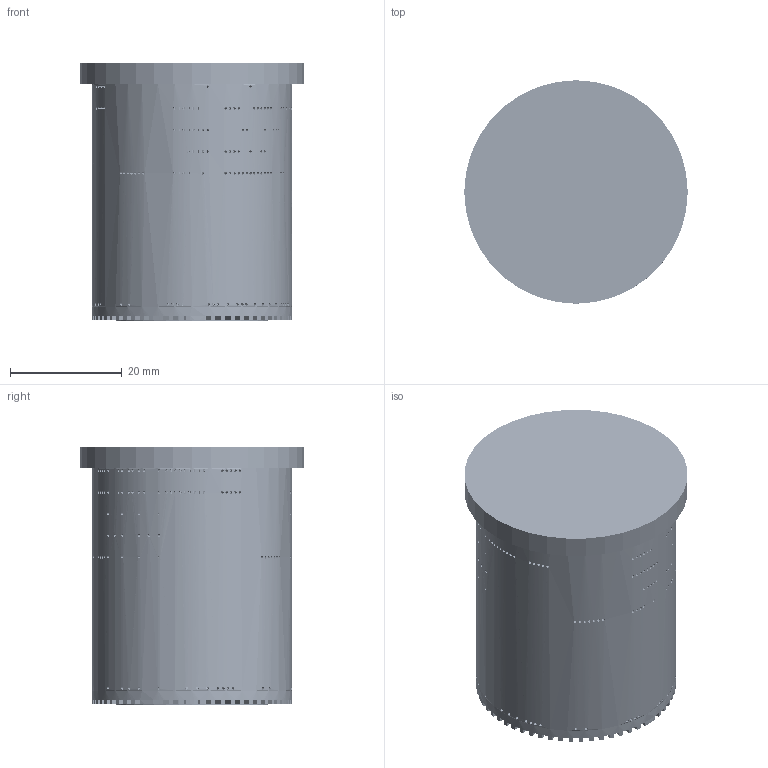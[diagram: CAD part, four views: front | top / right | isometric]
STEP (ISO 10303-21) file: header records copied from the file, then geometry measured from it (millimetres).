
FILE_DESCRIPTION(('Open CASCADE Model'),'2;1');
FILE_NAME('Open CASCADE Shape Model','2026-11-25T16:09:26',('Author'),( 'Open CASCADE'),'Open CASCADE STEP processor 7.8','Open CASCADE 7.8' ,'Unknown');
FILE_SCHEMA(('AUTOMOTIVE_DESIGN { 1 0 10303 214 1 1 1 1 }'));
Length unit declared in the file: millimetre
Products named in the file (17): 32e466fa-e8e2-11f1-9939-3ea5e9b9197e; aft_end_board; battery_holder; battery_floor_plate; activation_interface; spacer_activation_interface_wakeup_board; wakeup_board; spacer_wakeup_board_power_board; power_board; spacer_power_board_companion_compute; companion_compute; spacer_companion_compute_radar_module; radar_module; core_sleeve; nose_cap; aop_dam; aft_end_cap
Assembly tree (16 placements, depth 2):
  32e466fa-e8e2-11f1-9939-3ea5e9b9197e
    aft_end_board
    battery_holder
    battery_floor_plate
    activation_interface
    spacer_activation_interface_wakeup_board
    wakeup_board
    spacer_wakeup_board_power_board
    power_board
    spacer_power_board_companion_compute
    companion_compute
    spacer_companion_compute_radar_module
    radar_module
    core_sleeve
    nose_cap
    aop_dam
    aft_end_cap
Bounding box: 40 x 40 x 46.25 mm (x, y, z)
Volume: 31220.2 mm3; surface area: 47722.3 mm2
Topology: 2116 solids, 2116 shells, 28975 faces, 73260 edges, 48386 vertices
Faces by surface type: plane 19673, cylinder 8334, sphere 656, bspline 260, extrusion 32, cone 12, torus 8
Full cylindrical faces by diameter (mm): 0.1 x1, 0.125 x1, 0.163 x5, 0.188 x3, 0.25 x3, 0.3 x9, 0.5 x302, 0.55 x180, 0.625 x4, 0.8 x3, 0.812 x1, 1 x4, 1.2 x6, 1.25 x1, 1.55 x3, 1.6 x3, 1.8 x22, 2.2 x15, 3 x6, 3.5 x3, 27.2 x2, 27.8 x1, 34.2 x1, 35.8 x2, 37.88 x1, 38 x1, 40 x1
Entity records: 1894048 total; most frequent: CARTESIAN_POINT 440521, DIRECTION 275109, VECTOR 176818, LINE 176786, ORIENTED_EDGE 142834, PCURVE 142832, DEFINITIONAL_REPRESENTATION 142832, EDGE_CURVE 71416
